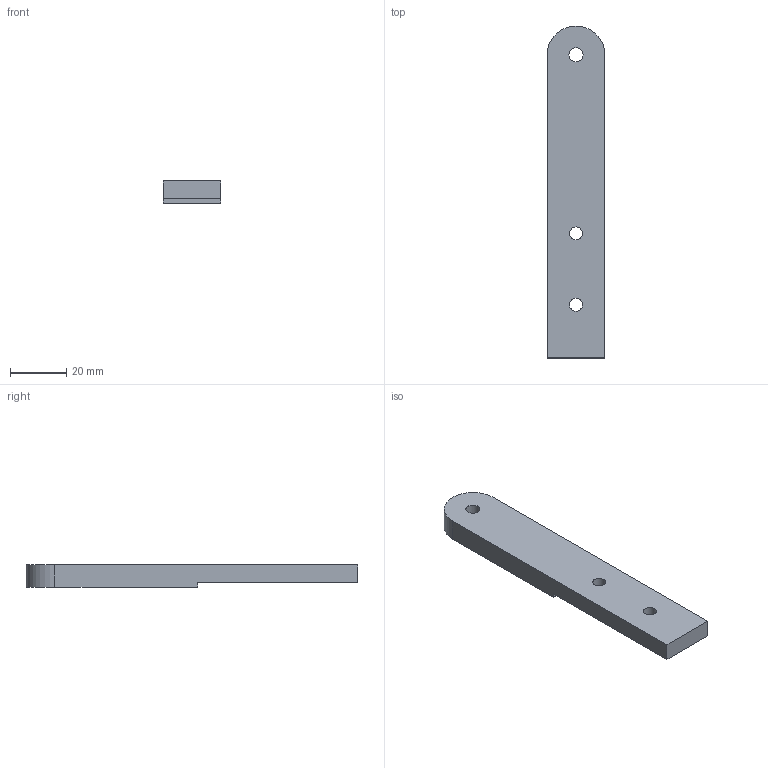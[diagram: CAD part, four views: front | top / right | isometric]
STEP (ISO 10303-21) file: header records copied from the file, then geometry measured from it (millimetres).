
FILE_DESCRIPTION(('STEP AP242 Edition 2','STEP AP242 Edition 2''CAx-IF Rec.Pracs.---Representation and Presentation of Product Manufacturing Information (PMI)---4.0---2014-10-13','STEP AP242 Edition 2''CAx-IF Rec.Pracs.---Representation and Presentation of Product Manufacturing Information (PMI)---4.0---2014-10-13''CAx-IF Rec.Pracs.---3D Tessellated Geometry---0.4---2014-09-14','STEP AP242 Edition 2''CAx-IF Rec.Pracs.---Representation and Presentation of Product Manufacturing Information (PMI)---4.0---2014-10-13''CAx-IF Rec.Pracs.---3D Tessellated Geometry---0.4---2014-09-14''2;1','STEP AP242 Edition 2''CAx-IF Rec.Pracs.---Representation and Presentation of Product Manufacturing Information (PMI)---4.0---2014-10-13''CAx-IF Rec.Pracs.---3D Tessellated Geometry---0.4---2014-09-14''2;1''CAx-IF Rec.Pracs.---User Defined Attributes---1.5---2016-08-15'),'2;1');
FILE_NAME('/vol/tmp/translate-5255378339536296774/Part Studio 1 Copy 1 - Part 1.step','2026-03-05T22:47:44',(''),(''),'ST-DEVELOPER v20','ONSHAPE BY PTC INC, 1.211',' ');
FILE_SCHEMA(('AP242_MANAGED_MODEL_BASED_3D_ENGINEERING_MIM_LF { 1 0 10303 442 3 1 4 }'));
Length unit declared in the file: metre
Products named in the file (1): Part 1
Bounding box: 20.5 x 118.05 x 7.9 mm (x, y, z)
Volume: 16641.4 mm3; surface area: 6901.8 mm2
Topology: 1 solids, 1 shells, 11 faces, 27 edges, 18 vertices
Faces by surface type: plane 7, cylinder 4
Full cylindrical faces by diameter (mm): 4.6 x2, 5 x1
Entity records: 348 total; most frequent: DIRECTION 56, CARTESIAN_POINT 54, ORIENTED_EDGE 48, EDGE_CURVE 24, EDGE_LOOP 20, FACE_BOUND 20, AXIS2_PLACEMENT_3D 20, VERTEX_POINT 18
